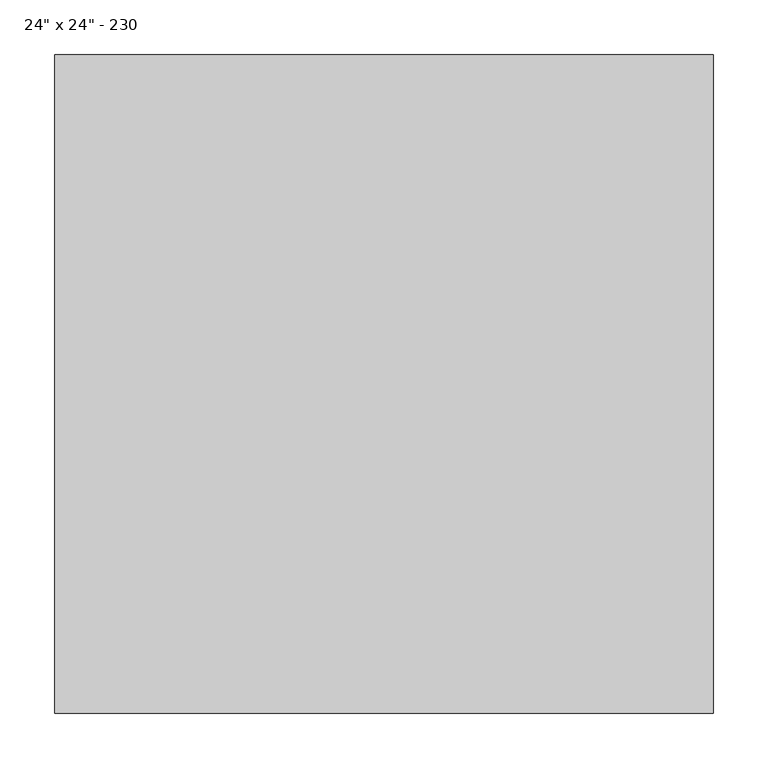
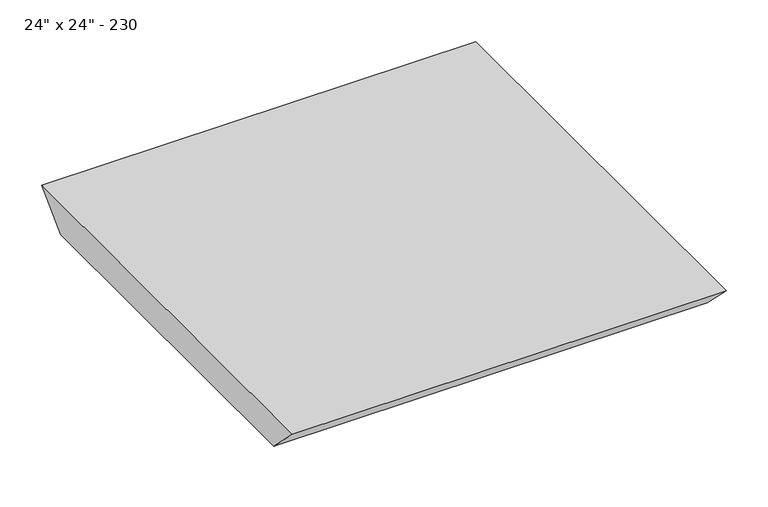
"""IFC4 building model written with IfcOpenShell, lengths in millimetres: light fixture geometry."""

from ifc_helpers import new_model, si_unit, frame, origin, place, context, project, spatial, polyline, outline, extrude, source, transform, mapped, element, save


def light_fixture_b730b5ca(model_context):
    return source(origin(), model_context, "Body", "SweptSolid", [
        extrude(outline(polyline([(-600.0, 0.0), (0.0, 0.0), (-45.0, -45.0), (-555.0, -45.0), (-600.0, 0.0)])), frame((0.0, 0.0, 0.0), z_axis=(1.0, 0.0, 0.0), x_axis=(0.0, 1.0, 0.0)), (0.0, 0.0, 1.0), 600.0),
    ])


if __name__ == "__main__":
    model = new_model("IFC4")
    model_context = context("Model", 3, world=origin())
    ifc_project = project(units=[si_unit("LENGTHUNIT", "METRE", prefix="MILLI")], contexts=[model_context])
    site = spatial("IfcSite", under=ifc_project)
    building = spatial("IfcBuilding", under=site)
    placement = place(None, origin())
    light_fixture_shape = light_fixture_b730b5ca(model_context)
    element("IfcLightFixture", 1, ObjectType="ELEKTRA EM Recessed Lighting Fixture : 24\" x 24\" - 230", at=placement, inside=building, context=model_context, shape_type="MappedRepresentation", body=[
        mapped(light_fixture_shape, transform((0.0, 0.0, 0.0), x_axis=(1.0, 0.0, 0.0), y_axis=(0.0, 1.0, 0.0), z_axis=(0.0, 0.0, 1.0))),
    ])
    save(model, "model.ifc")
